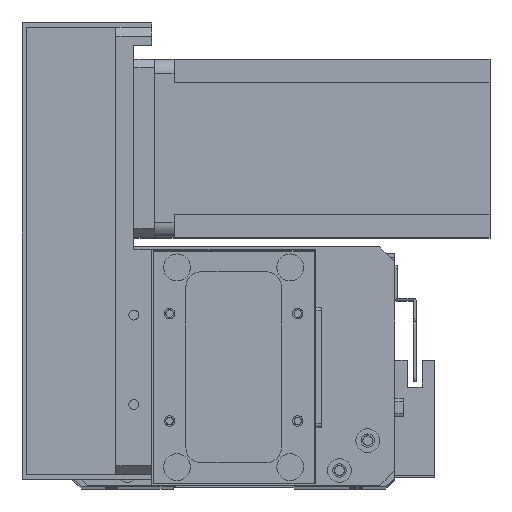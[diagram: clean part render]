
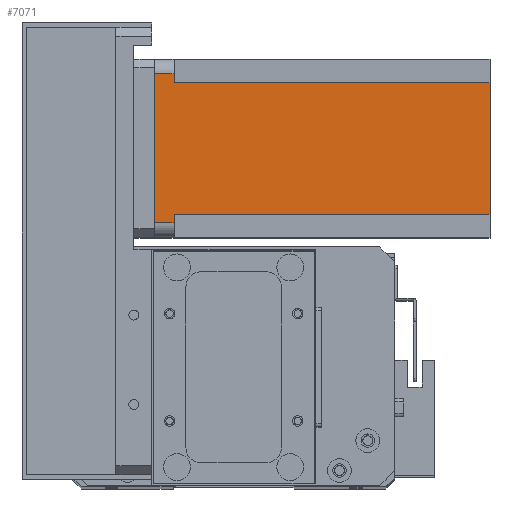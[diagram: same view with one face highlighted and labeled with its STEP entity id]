
A CAD part, top view. The second image highlights one B-rep face of the part: STEP entity #7071.
In plain terms, the highlighted planar face has unit normal (0, 0, 1) as drawn and (0, -1, 0) by its records, which use the part's own axes.
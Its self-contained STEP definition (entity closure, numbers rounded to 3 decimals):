
#4 = DIRECTION ( 'NONE',  ( 1., 0., 0. ) ) ;
#156 = CARTESIAN_POINT ( 'NONE',  ( 52., 0., -112.5 ) ) ;
#349 = LINE ( 'NONE', #26477, #11391 ) ;
#748 = DIRECTION ( 'NONE',  ( 0., 0., -1. ) ) ;
#919 = CARTESIAN_POINT ( 'NONE',  ( 0., 0., -112.5 ) ) ;
#1025 = ORIENTED_EDGE ( 'NONE', *, *, #4788, .F. ) ;
#1076 = VECTOR ( 'NONE', #6055, 1000. ) ;
#1266 = AXIS2_PLACEMENT_3D ( 'NONE', #5380, #20913, #10064 ) ;
#1822 = VECTOR ( 'NONE', #11015, 1000. ) ;
#2493 = VERTEX_POINT ( 'NONE', #17275 ) ;
#4325 = EDGE_CURVE ( 'NONE', #8886, #2493, #22271, .T. ) ;
#4587 = CARTESIAN_POINT ( 'NONE',  ( 8., 0., -112.5 ) ) ;
#4685 = ORIENTED_EDGE ( 'NONE', *, *, #4756, .T. ) ;
#4749 = EDGE_CURVE ( 'NONE', #17090, #20939, #8161, .T. ) ;
#4756 = EDGE_CURVE ( 'NONE', #20939, #2493, #14234, .T. ) ;
#4763 = EDGE_CURVE ( 'NONE', #8886, #5496, #7431, .T. ) ;
#4788 = EDGE_CURVE ( 'NONE', #24604, #5496, #18652, .T. ) ;
#4799 = EDGE_CURVE ( 'NONE', #27075, #24604, #24320, .T. ) ;
#4803 = DIRECTION ( 'NONE',  ( 0., 0., 1. ) ) ;
#4833 = EDGE_CURVE ( 'NONE', #27075, #15050, #22955, .T. ) ;
#4840 = EDGE_CURVE ( 'NONE', #17090, #15050, #349, .T. ) ;
#5380 = CARTESIAN_POINT ( 'NONE',  ( 0., 0., -112.5 ) ) ;
#5496 = VERTEX_POINT ( 'NONE', #10822 ) ;
#6055 = DIRECTION ( 'NONE',  ( -1., 0., 0. ) ) ;
#6965 = CARTESIAN_POINT ( 'NONE',  ( 8., 0., -6.5 ) ) ;
#7071 = ADVANCED_FACE ( 'NONE', ( #21481 ), #7742, .T. ) ;
#7431 = LINE ( 'NONE', #8804, #19318 ) ;
#7742 = PLANE ( 'NONE',  #1266 ) ;
#8161 = LINE ( 'NONE', #12539, #1822 ) ;
#8596 = DIRECTION ( 'NONE',  ( 0., 0., -1. ) ) ;
#8804 = CARTESIAN_POINT ( 'NONE',  ( 5., 0., -112.5 ) ) ;
#8886 = VERTEX_POINT ( 'NONE', #23022 ) ;
#10064 = DIRECTION ( 'NONE',  ( 0., 0., -1. ) ) ;
#10821 = DIRECTION ( 'NONE',  ( 0., 0., 1. ) ) ;
#10822 = CARTESIAN_POINT ( 'NONE',  ( 5., 0., -6.5 ) ) ;
#10939 = EDGE_LOOP ( 'NONE', ( #23309, #4685, #18973, #21962, #1025, #25425, #16714, #19058 ) ) ;
#11015 = DIRECTION ( 'NONE',  ( 1., 0., 0. ) ) ;
#11113 = CARTESIAN_POINT ( 'NONE',  ( 55., 0., -112.5 ) ) ;
#11391 = VECTOR ( 'NONE', #748, 1000. ) ;
#11911 = CARTESIAN_POINT ( 'NONE',  ( 0., 0., 0. ) ) ;
#12539 = CARTESIAN_POINT ( 'NONE',  ( 52., 0., -6.5 ) ) ;
#12717 = DIRECTION ( 'NONE',  ( 1., 0., 0. ) ) ;
#13661 = CARTESIAN_POINT ( 'NONE',  ( 8., 0., -112.5 ) ) ;
#14234 = LINE ( 'NONE', #11113, #19980 ) ;
#15050 = VERTEX_POINT ( 'NONE', #156 ) ;
#16714 = ORIENTED_EDGE ( 'NONE', *, *, #4833, .T. ) ;
#17090 = VERTEX_POINT ( 'NONE', #25870 ) ;
#17275 = CARTESIAN_POINT ( 'NONE',  ( 55., 0., 0. ) ) ;
#17290 = VECTOR ( 'NONE', #12717, 1000. ) ;
#18652 = LINE ( 'NONE', #6965, #1076 ) ;
#18973 = ORIENTED_EDGE ( 'NONE', *, *, #4325, .F. ) ;
#19058 = ORIENTED_EDGE ( 'NONE', *, *, #4840, .F. ) ;
#19318 = VECTOR ( 'NONE', #8596, 1000. ) ;
#19980 = VECTOR ( 'NONE', #10821, 1000. ) ;
#20913 = DIRECTION ( 'NONE',  ( 0., -1., 0. ) ) ;
#20939 = VERTEX_POINT ( 'NONE', #28412 ) ;
#21481 = FACE_OUTER_BOUND ( 'NONE', #10939, .T. ) ;
#21962 = ORIENTED_EDGE ( 'NONE', *, *, #4763, .T. ) ;
#22271 = LINE ( 'NONE', #11911, #17290 ) ;
#22955 = LINE ( 'NONE', #919, #28037 ) ;
#23022 = CARTESIAN_POINT ( 'NONE',  ( 5., 0., 0. ) ) ;
#23309 = ORIENTED_EDGE ( 'NONE', *, *, #4749, .T. ) ;
#24320 = LINE ( 'NONE', #4587, #28689 ) ;
#24604 = VERTEX_POINT ( 'NONE', #28611 ) ;
#25425 = ORIENTED_EDGE ( 'NONE', *, *, #4799, .F. ) ;
#25870 = CARTESIAN_POINT ( 'NONE',  ( 52., 0., -6.5 ) ) ;
#26477 = CARTESIAN_POINT ( 'NONE',  ( 52., 0., -112.5 ) ) ;
#27075 = VERTEX_POINT ( 'NONE', #13661 ) ;
#28037 = VECTOR ( 'NONE', #4, 1000. ) ;
#28412 = CARTESIAN_POINT ( 'NONE',  ( 55., 0., -6.5 ) ) ;
#28611 = CARTESIAN_POINT ( 'NONE',  ( 8., 0., -6.5 ) ) ;
#28689 = VECTOR ( 'NONE', #4803, 1000. ) ;
